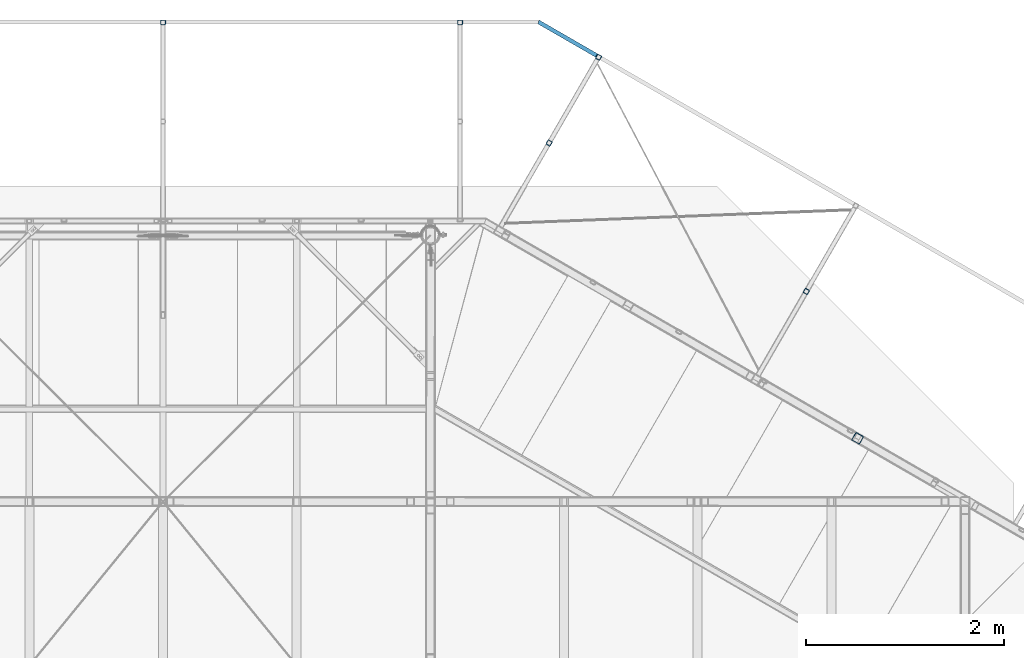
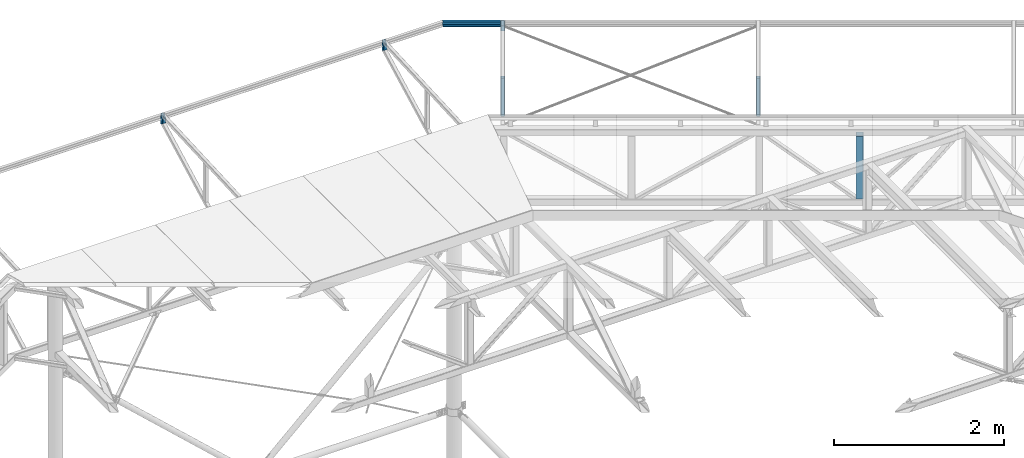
# One storey, part 95 of 132: 7 discrete accessories, 6 elements without a shape of their own.
"""IFC2X3 building model written with IfcOpenShell, lengths in millimetres."""

import ifcopenshell
import ifcopenshell.guid

model = None  # the IFC model being written
_history = None  # IfcOwnerHistory: only IFC2X3 demands one
_inside = {}  # id of a spatial element -> (the spatial element, [elements in it])
_under = {}  # id of a project, library or spatial element -> (it, [spatial elements below it])
_declared = {}  # id of a project -> (the project, [libraries it declares])
_typed = {}  # id of a type object -> (the type object, [elements of that type])
_made_of = {}  # id of a material, layer set ... -> (it, [elements and type objects made of it])


def new_model(schema):
    """Start an empty IFC model of exactly this schema.

    Asked for "IFC4X3", IfcOpenShell would pick the latest addendum, in which some entities
    have other attributes; the version numbers below select the first issue.
    IFC2X3 requires an IfcOwnerHistory on every rooted entity: one is made here for all.
    """
    global model, _history
    if schema == "IFC4X3":
        model = ifcopenshell.file(schema_version=(4, 3, 0, 0))
    else:
        model = ifcopenshell.file(schema=schema)
    _inside.clear()
    _under.clear()
    _declared.clear()
    _typed.clear()
    _made_of.clear()
    _history = None
    if model.schema == "IFC2X3":
        org = make("IfcOrganization", Name="unknown")
        user = make(
            "IfcPersonAndOrganization",
            ThePerson=make("IfcPerson", FamilyName="unknown"),
            TheOrganization=org,
        )
        app = make(
            "IfcApplication",
            ApplicationDeveloper=org,
            Version="unknown",
            ApplicationFullName="unknown",
            ApplicationIdentifier="unknown",
        )
        _history = make(
            "IfcOwnerHistory",
            OwningUser=user,
            OwningApplication=app,
            ChangeAction="ADDED",
            CreationDate=0,
        )
    return model


def make(cls, **values):
    """One entity of the class cls with the attributes given. An attribute that is None is left unset."""
    return model.create_entity(
        cls, **{name: value for name, value in values.items() if value is not None}
    )


def rooted(cls, **values):
    """An entity with a GlobalId (a new one), such as an element, a storey or a relation."""
    return make(cls, GlobalId=ifcopenshell.guid.new(), OwnerHistory=_history, **values)


def si_unit(unit_type, name, prefix=None):
    """IfcSIUnit, for example si_unit("LENGTHUNIT", "METRE", prefix="MILLI")."""
    return make("IfcSIUnit", UnitType=unit_type, Prefix=prefix, Name=name)


def assignment(units):
    """IfcUnitAssignment: the units of a project."""
    return None if units is None else make("IfcUnitAssignment", Units=units)


def point(xyz):
    """IfcCartesianPoint."""
    return None if xyz is None else make("IfcCartesianPoint", Coordinates=xyz)


def direction(xyz):
    """IfcDirection."""
    return None if xyz is None else make("IfcDirection", DirectionRatios=xyz)


def frame(location, z_axis=None, x_axis=None):
    """IfcAxis2Placement3D, a coordinate frame: its origin and axes. An axis left out is left unset."""
    return make(
        "IfcAxis2Placement3D",
        Location=point(location),
        Axis=direction(z_axis),
        RefDirection=direction(x_axis),
    )


def frame_2d(location, x_axis=None):
    """IfcAxis2Placement2D, a coordinate frame in the plane: its origin and x axis."""
    return make(
        "IfcAxis2Placement2D", Location=point(location), RefDirection=direction(x_axis)
    )


def origin_with_axes():
    """The frame at (0, 0, 0) with the z axis (0, 0, 1) and the x axis (1, 0, 0) written out."""
    return frame((0.0, 0.0, 0.0), z_axis=(0.0, 0.0, 1.0), x_axis=(1.0, 0.0, 0.0))


def origin_2d_with_axis():
    """The frame at (0, 0) in the plane with the x axis (1, 0) written out."""
    return frame_2d((0.0, 0.0), x_axis=(1.0, 0.0))


def place(relative_to, where):
    """IfcLocalPlacement: puts the frame where relative to a parent placement (None: the world)."""
    return make(
        "IfcLocalPlacement", PlacementRelTo=relative_to, RelativePlacement=where
    )


def context(
    kind, dimensions, precision=None, world=None, true_north=None, identifier=None
):
    """IfcGeometricRepresentationContext, for example the 3D "Model" context."""
    return make(
        "IfcGeometricRepresentationContext",
        ContextIdentifier=identifier,
        ContextType=kind,
        CoordinateSpaceDimension=dimensions,
        Precision=precision,
        WorldCoordinateSystem=world,
        TrueNorth=true_north,
    )


def subcontext(parent, identifier, kind, view, scale=None):
    """IfcGeometricRepresentationSubContext, for example "Body" below "Model"."""
    return make(
        "IfcGeometricRepresentationSubContext",
        ContextIdentifier=identifier,
        ContextType=kind,
        ParentContext=parent,
        TargetScale=scale,
        TargetView=view,
    )


def project(units=None, contexts=None):
    """IfcProject with its units and contexts."""
    return rooted(
        "IfcProject",
        Name="project",
        RepresentationContexts=contexts,
        UnitsInContext=assignment(units),
    )


def spatial(cls, under=None, at=None, **own):
    """A site, building, storey or space (cls), placed at a placement, below another one or the project."""
    s = rooted(cls, ObjectPlacement=at, **own)
    if under is not None:
        _under.setdefault(under.id(), (under, []))[1].append(s)
    return s


def profile(cls, at=None, kind="AREA", **sizes):
    """A parametric profile (cls). Its sizes go by their IFC names, for example OverallWidth=200.0."""
    return make(cls, ProfileType=kind, Position=at, **sizes)


def hollow_rectangle(**sizes):
    """IfcRectangleHollowProfileDef."""
    return profile("IfcRectangleHollowProfileDef", **sizes)


def u_section(**sizes):
    """IfcUShapeProfileDef."""
    return profile("IfcUShapeProfileDef", **sizes)


def extrude(swept, where, along, depth):
    """IfcExtrudedAreaSolid: the profile swept, set in the frame where, extruded along a direction by depth."""
    return make(
        "IfcExtrudedAreaSolid",
        SweptArea=swept,
        Position=where,
        ExtrudedDirection=direction(along),
        Depth=depth,
    )


def clip(a, b, op="DIFFERENCE"):
    """IfcBooleanClippingResult: the solid a cut by the half space b."""
    return make(
        "IfcBooleanClippingResult", Operator=op, FirstOperand=a, SecondOperand=b
    )


def halfspace(plane, agree):
    """IfcHalfSpaceSolid: all space on one side of the plane z = 0 of the frame plane."""
    return make(
        "IfcHalfSpaceSolid",
        BaseSurface=make("IfcPlane", Position=plane),
        AgreementFlag=agree,
    )


def shape(context_of_items, identifier, shape_type, items):
    """IfcShapeRepresentation: the items that make up one representation, for example the "Body"."""
    return make(
        "IfcShapeRepresentation",
        ContextOfItems=context_of_items,
        RepresentationIdentifier=identifier,
        RepresentationType=shape_type,
        Items=items,
    )


def material(Name=None, Category=None):
    """IfcMaterial."""
    return make("IfcMaterial", Name=Name, Category=Category)


def made_of(thing, what):
    """Note that an element or type object is made of a material, layer set ...; save() writes the relation."""
    if what is not None:
        _made_of.setdefault(what.id(), (what, []))[1].append(thing)
    return thing


def type_object(cls, material=None, **own):
    """A type object (cls), such as IfcWallType, which elements share."""
    return made_of(rooted(cls, **own), material)


def element(
    cls,
    number,
    at=None,
    inside=None,
    cuts=None,
    type_object=None,
    material=None,
    context=None,
    identifier="Body",
    shape_type=None,
    held_by="IfcProductDefinitionShape",
    body=None,
    shapes=None,
    **own,
):
    """One element of the class cls, such as IfcWall. Its Tag is "e" and its number.

    at: its placement. inside: the storey or other place that contains it. cuts: it is an
    opening in that element (IfcRelVoidsElement). A single representation is given by context,
    identifier, shape_type and body (its items); several are given by shapes. held_by: the class
    of the entity that holds the representations. save() writes the other relations.
    """
    e = rooted(cls, Tag="e%d" % number, ObjectPlacement=at, **own)
    if body is not None:
        shapes = [shape(context, identifier, shape_type, body)]
    if shapes is not None:
        e.Representation = make(held_by, Representations=shapes)
    if inside is not None:
        _inside.setdefault(inside.id(), (inside, []))[1].append(e)
    if cuts is not None:
        rooted(
            "IfcRelVoidsElement", RelatingBuildingElement=cuts, RelatedOpeningElement=e
        )
    if type_object is not None:
        _typed.setdefault(type_object.id(), (type_object, []))[1].append(e)
    return made_of(e, material)


def aggregate(whole, parts):
    """IfcRelAggregates: a whole, such as a stair, and the parts it consists of."""
    return rooted("IfcRelAggregates", RelatingObject=whole, RelatedObjects=parts)


def save(model, path):
    """Write the relations noted so far, then the file.

    IfcRelAggregates (storeys below a building ...), IfcRelContainedInSpatialStructure (elements
    in a storey), IfcRelDefinesByType, IfcRelAssociatesMaterial and IfcRelDeclares: one each for
    every whole, place, type object, material and project.
    """
    for whole, parts in _under.values():
        aggregate(whole, parts)
    for where, things in _inside.values():
        rooted(
            "IfcRelContainedInSpatialStructure",
            RelatedElements=things,
            RelatingStructure=where,
        )
    for kind, things in _typed.values():
        rooted("IfcRelDefinesByType", RelatedObjects=things, RelatingType=kind)
    for what, things in _made_of.values():
        rooted("IfcRelAssociatesMaterial", RelatedObjects=things, RelatingMaterial=what)
    for by, libraries in _declared.values():
        rooted("IfcRelDeclares", RelatingContext=by, RelatedDefinitions=libraries)
    model.write(path)


model = new_model("IFC2X3")

# Units and contexts
model_context = context("Model", 3, precision=1e-05, world=origin_with_axes())
body_context = subcontext(model_context, "Body", "Model", "MODEL_VIEW")
ifc_project = project(units=[si_unit("LENGTHUNIT", "METRE", prefix="MILLI"), si_unit("AREAUNIT", "SQUARE_METRE"), si_unit("VOLUMEUNIT", "CUBIC_METRE"), si_unit("MASSUNIT", "GRAM", prefix="KILO"), si_unit("TIMEUNIT", "SECOND"), si_unit("PLANEANGLEUNIT", "RADIAN"), si_unit("SOLIDANGLEUNIT", "STERADIAN"), si_unit("THERMODYNAMICTEMPERATUREUNIT", "DEGREE_CELSIUS"), si_unit("LUMINOUSINTENSITYUNIT", "LUMEN")], contexts=[model_context])

# Site, building, storey
site_placement = place(None, origin_with_axes())
site = spatial("IfcSite", under=ifc_project, at=site_placement, Name="Budowa", CompositionType="ELEMENT")
building_placement = place(site_placement, origin_with_axes())
building = spatial("IfcBuilding", under=site, at=building_placement, Name="Undefined", CompositionType="ELEMENT")
storey_placement = place(building_placement, origin_with_axes())
storey = spatial("IfcBuildingStorey", under=building, at=storey_placement, Name="Undefined", CompositionType="ELEMENT", Elevation=0.0)

# Assembly, discrete accessory
assembly_1_placement = place(storey_placement, origin_with_axes())
assembly_1 = element("IfcElementAssembly", 1, at=assembly_1_placement, inside=storey, Name="Steel Assembly", AssemblyPlace="NOTDEFINED", PredefinedType="RIGID_FRAME")
ifc_material = material(Name="STEEL/S235")
discrete_accessory_type = type_object("IfcDiscreteAccessoryType", Name="BEAM")
discrete_accessory_1_placement = place(assembly_1_placement, frame((16505.0099380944, 25815.8455709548, 13945.0050192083), z_axis=(0.0, 0.0, -1.0), x_axis=(-0.866042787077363, 0.499969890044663, 0.0)))
discrete_accessory_1 = element("IfcDiscreteAccessory", 2, at=discrete_accessory_1_placement, type_object=discrete_accessory_type, material=ifc_material, Name="BEAM", ObjectType="C70*40*4", context=body_context, shape_type="Clipping", body=[
    clip(extrude(u_section(Depth=70.0, FlangeWidth=40.0, WebThickness=4.0, FlangeThickness=4.0, FilletRadius=6.0, at=origin_2d_with_axis()), frame((710.63006842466, -3.94478931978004e-14, 0.0), z_axis=(-1.0, 0.0, 0.0), x_axis=(0.0, -1.0, 0.0)), (0.0, 0.0, 1.0), 710.63), halfspace(frame((683.709082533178, 20.0000000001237, -1.81898940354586e-12), z_axis=(0.965930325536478, -0.25880225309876, 0.0), x_axis=(0.0, 0.0, -1.0)), False)),
])
aggregate(assembly_1, [discrete_accessory_1])

# Assembly, discrete accessories
assembly_2_placement = place(storey_placement, origin_with_axes())
assembly_2 = element("IfcElementAssembly", 3, at=assembly_2_placement, inside=storey, Name="Steel Assembly", AssemblyPlace="NOTDEFINED", PredefinedType="RIGID_FRAME")
discrete_accessory_2_placement = place(assembly_2_placement, frame((16024.1912682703, 24932.9733226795, 13878.94002838), z_axis=(0.866042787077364, -0.499969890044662, 0.0), x_axis=(0.0, 0.0, -1.0)))
discrete_accessory_2 = element("IfcDiscreteAccessory", 4, at=discrete_accessory_2_placement, type_object=discrete_accessory_type, material=ifc_material, Name="BEAM", ObjectType="SHS50*4", context=body_context, shape_type="Clipping", body=[
    clip(clip(extrude(hollow_rectangle(XDim=50.0, YDim=50.0, WallThickness=4.0, InnerFilletRadius=4.0, OuterFilletRadius=8.0, at=origin_2d_with_axis()), frame((545.085010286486, 0.0, 0.0), z_axis=(-1.0, 0.0, 0.0), x_axis=(0.0, -1.0, 0.0)), (0.0, 0.0, 1.0), 559.36), halfspace(frame((536.667324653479, -11.620388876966, 1000.0), z_axis=(-0.885407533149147, -0.464815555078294, 0.0), x_axis=(0.464815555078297, -0.885407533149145, 0.0)), True)), halfspace(frame((0.185048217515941, 1.24844042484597, 1000.0), z_axis=(0.998752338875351, 0.0499376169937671, 0.0), x_axis=(-0.0499376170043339, 0.998752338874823, 2.09020387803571e-11)), True)),
])
discrete_accessory_3_placement = place(assembly_2_placement, frame((16524.1611583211, 25799.0161097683, 13979.9998397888), z_axis=(0.866042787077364, -0.499969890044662, 0.0), x_axis=(0.0, 0.0, -1.0)))
discrete_accessory_3 = element("IfcDiscreteAccessory", 5, at=discrete_accessory_3_placement, type_object=discrete_accessory_type, material=ifc_material, Name="BEAM", ObjectType="SHS50*4", context=body_context, shape_type="Clipping", body=[
    clip(clip(extrude(hollow_rectangle(XDim=50.0, YDim=50.0, WallThickness=4.0, InnerFilletRadius=4.0, OuterFilletRadius=8.0, at=origin_2d_with_axis()), frame((176.695154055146, 0.0, 0.0), z_axis=(-1.0, 0.0, 0.0), x_axis=(0.0, -1.0, 0.0)), (0.0, 0.0, 1.0), 192.23), halfspace(frame((149.999998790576, 25.0, 0.0), z_axis=(0.855808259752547, -0.517293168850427, 0.0), x_axis=(0.0, 0.0, -1.0)), False)), halfspace(frame((-0.00517939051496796, 25.0, 0.0), z_axis=(-0.689225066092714, -0.724547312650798, 2.88487317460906e-10), x_axis=(0.0, 0.0, 1.0)), False)),
])
aggregate(assembly_2, [discrete_accessory_2, discrete_accessory_3])

# Assembly, discrete accessory
assembly_3_placement = place(storey_placement, origin_with_axes())
assembly_3 = element("IfcElementAssembly", 6, at=assembly_3_placement, inside=storey, Name="Steel Assembly", AssemblyPlace="NOTDEFINED", PredefinedType="RIGID_FRAME")
discrete_accessory_4_placement = place(assembly_3_placement, frame((18622.3196295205, 23433.0636525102, 13878.94002838), z_axis=(0.866042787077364, -0.499969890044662, 0.0), x_axis=(0.0, 0.0, -1.0)))
discrete_accessory_4 = element("IfcDiscreteAccessory", 7, at=discrete_accessory_4_placement, type_object=discrete_accessory_type, material=ifc_material, Name="BEAM", ObjectType="SHS50*4", context=body_context, shape_type="Clipping", body=[
    clip(clip(extrude(hollow_rectangle(XDim=50.0, YDim=50.0, WallThickness=4.0, InnerFilletRadius=4.0, OuterFilletRadius=8.0, at=origin_2d_with_axis()), frame((545.085010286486, 0.0, 0.0), z_axis=(-1.0, 0.0, 0.0), x_axis=(0.0, -1.0, 0.0)), (0.0, 0.0, 1.0), 559.36), halfspace(frame((536.667324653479, -11.620388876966, 1000.0), z_axis=(-0.885407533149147, -0.464815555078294, 0.0), x_axis=(0.464815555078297, -0.885407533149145, 0.0)), True)), halfspace(frame((0.185048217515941, 1.24844042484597, 1000.0), z_axis=(0.998752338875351, 0.0499376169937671, 0.0), x_axis=(-0.0499376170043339, 0.998752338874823, 2.09020387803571e-11)), True)),
])
aggregate(assembly_3, [discrete_accessory_4])

assembly_4_placement = place(storey_placement, origin_with_axes())
assembly_4 = element("IfcElementAssembly", 8, at=assembly_4_placement, inside=storey, Name="Steel Assembly", AssemblyPlace="NOTDEFINED", PredefinedType="RIGID_FRAME")
discrete_accessory_5_placement = place(assembly_4_placement, frame((15124.9999999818, 26150.0003815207, 13979.9998397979), z_axis=(1.0, 0.0, 0.0), x_axis=(0.0, 0.0, -1.0)))
discrete_accessory_5 = element("IfcDiscreteAccessory", 9, at=discrete_accessory_5_placement, type_object=discrete_accessory_type, material=ifc_material, Name="BEAM", ObjectType="SHS50*4", context=body_context, shape_type="Clipping", body=[
    clip(clip(extrude(hollow_rectangle(XDim=50.0, YDim=50.0, WallThickness=4.0, InnerFilletRadius=4.0, OuterFilletRadius=8.0, at=origin_2d_with_axis()), frame((176.695154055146, 0.0, 0.0), z_axis=(-1.0, 0.0, 0.0), x_axis=(0.0, -1.0, 0.0)), (0.0, 0.0, 1.0), 192.23), halfspace(frame((149.999998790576, 25.0, 0.0), z_axis=(0.855808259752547, -0.517293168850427, 0.0), x_axis=(0.0, 0.0, -1.0)), False)), halfspace(frame((-0.00517939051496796, 25.0, 0.0), z_axis=(-0.689225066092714, -0.724547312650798, 2.88487317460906e-10), x_axis=(0.0, 0.0, 1.0)), False)),
])
aggregate(assembly_4, [discrete_accessory_5])

assembly_5_placement = place(storey_placement, origin_with_axes())
assembly_5 = element("IfcElementAssembly", 10, at=assembly_5_placement, inside=storey, Name="Steel Assembly", AssemblyPlace="NOTDEFINED", PredefinedType="RIGID_FRAME")
discrete_accessory_6_placement = place(assembly_5_placement, frame((12124.9999999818, 26150.0003815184, 13979.9998397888), z_axis=(1.0, 0.0, 0.0), x_axis=(0.0, 0.0, -1.0)))
discrete_accessory_6 = element("IfcDiscreteAccessory", 11, at=discrete_accessory_6_placement, type_object=discrete_accessory_type, material=ifc_material, Name="BEAM", ObjectType="SHS50*4", context=body_context, shape_type="Clipping", body=[
    clip(clip(extrude(hollow_rectangle(XDim=50.0, YDim=50.0, WallThickness=4.0, InnerFilletRadius=4.0, OuterFilletRadius=8.0, at=origin_2d_with_axis()), frame((176.695154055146, 0.0, 0.0), z_axis=(-1.0, 0.0, 0.0), x_axis=(0.0, -1.0, 0.0)), (0.0, 0.0, 1.0), 192.23), halfspace(frame((149.999998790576, 25.0, 0.0), z_axis=(0.855808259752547, -0.517293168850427, 0.0), x_axis=(0.0, 0.0, -1.0)), False)), halfspace(frame((-0.00517939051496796, 25.0, 0.0), z_axis=(-0.689225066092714, -0.724547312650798, 2.88487317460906e-10), x_axis=(0.0, 0.0, 1.0)), False)),
])
aggregate(assembly_5, [discrete_accessory_6])

assembly_6_placement = place(storey_placement, origin_with_axes())
assembly_6 = element("IfcElementAssembly", 12, at=assembly_6_placement, inside=storey, Name="Steel Assembly", AssemblyPlace="NOTDEFINED", PredefinedType="RIGID_FRAME")
discrete_accessory_7_placement = place(assembly_6_placement, frame((19140.3912211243, 21950.3186919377, 12880.0), z_axis=(0.0, 0.0, 1.0), x_axis=(0.499969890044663, 0.866042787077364, 0.0)))
discrete_accessory_7 = element("IfcDiscreteAccessory", 13, at=discrete_accessory_7_placement, type_object=discrete_accessory_type, material=ifc_material, Name="BEAM", ObjectType="SHS90*4", context=body_context, shape_type="Clipping", body=[
    clip(clip(extrude(hollow_rectangle(XDim=90.0, YDim=90.0, WallThickness=4.0, InnerFilletRadius=4.0, OuterFilletRadius=8.0, at=origin_2d_with_axis()), frame((0.0, 0.0, 900.0), z_axis=(0.0, 0.0, -1.0), x_axis=(0.0, 1.0, 0.0)), (0.0, 0.0, 1.0), 900.0), halfspace(frame((1000.0, 0.0, 900.0), z_axis=(0.0, 0.0, -1.0), x_axis=(0.0, 1.0, 0.0)), True)), halfspace(frame((1000.0, 0.0, 0.0), z_axis=(0.0, 0.0, 1.0), x_axis=(0.0, -1.0, 0.0)), True)),
])
aggregate(assembly_6, [discrete_accessory_7])

save(model, "model.ifc")
